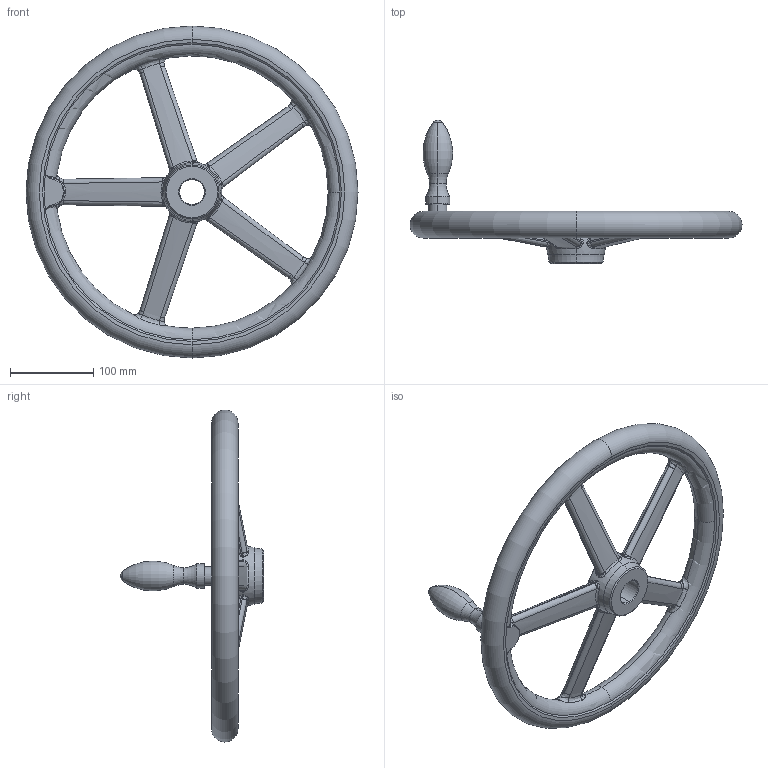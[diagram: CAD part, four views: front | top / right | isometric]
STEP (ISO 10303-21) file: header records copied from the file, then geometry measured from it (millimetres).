
FILE_DESCRIPTION (( 'STEP AP203' ), '1' );
FILE_NAME ('din950_f4_400x30.step', '2010-03-23T10:37:13', ( '_' ), ( '_' ), 'SwSTEP 2.0', 'SolidWorks 2010', '' );
FILE_SCHEMA (( 'CONFIG_CONTROL_DESIGN' ));
Length unit declared in the file: millimetre
Products named in the file (1): din950_f4_400x30
Bounding box: 400 x 173 x 400 mm (x, y, z)
Volume: 1462513.1 mm3; surface area: 198796.2 mm2
Topology: 1 solids, 1 shells, 261 faces, 641 edges, 333 vertices
Faces by surface type: bspline 196, torus 24, cone 16, plane 15, cylinder 8, sphere 2
Entity records: 59562 total; most frequent: CARTESIAN_POINT 54827, ORIENTED_EDGE 1194, EDGE_CURVE 597, DIRECTION 576, B_SPLINE_CURVE_WITH_KNOTS 364, VERTEX_POINT 333, AXIS2_PLACEMENT_3D 277, EDGE_LOOP 268
